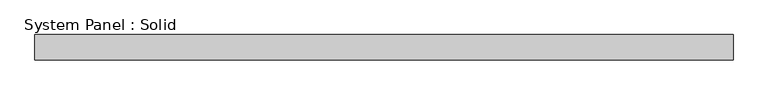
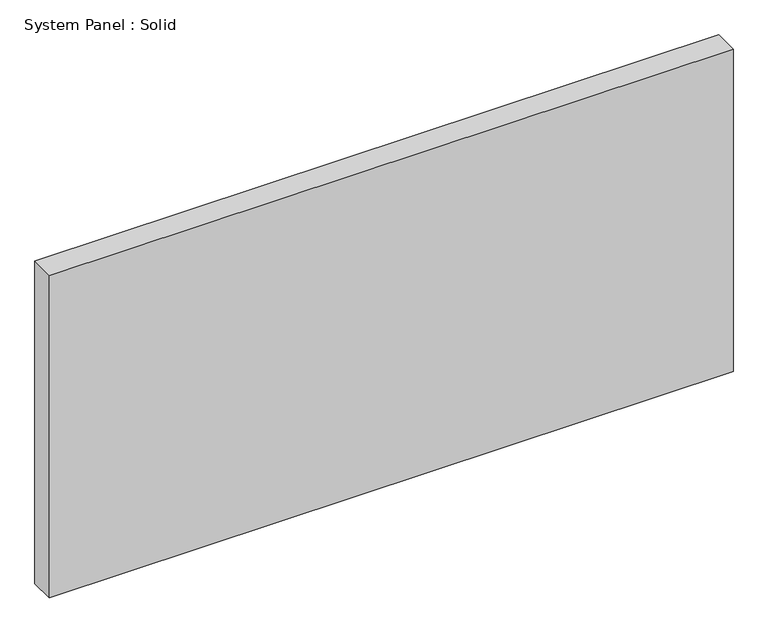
"""IFC4 building model written with IfcOpenShell, lengths in millimetres: plate geometry, System Panel : Solid."""

from ifc_helpers import new_model, si_unit, origin, origin_with_axes, place, context, project, spatial, polyline, outline, extrude, source, transform, mapped, element, save


def system_panel_solid_501921c6(model_context):
    return source(origin(), model_context, "Body", "SweptSolid", [
        extrude(outline(polyline([(874.7173453, -19.05), (-874.7173453, -19.05), (-874.7173453, 44.45), (874.7173453, 44.45), (874.7173453, -19.05)])), origin_with_axes(), (0.0, 0.0, 1.0), 873.1346896),
    ])


if __name__ == "__main__":
    model = new_model("IFC4")
    model_context = context("Model", 3, world=origin())
    ifc_project = project(units=[si_unit("LENGTHUNIT", "METRE", prefix="MILLI")], contexts=[model_context])
    site = spatial("IfcSite", under=ifc_project)
    building = spatial("IfcBuilding", under=site)
    placement = place(None, origin())
    system_panel_solid_shape = system_panel_solid_501921c6(model_context)
    element("IfcPlate", 1, ObjectType="System Panel : Solid", at=placement, inside=building, context=model_context, shape_type="MappedRepresentation", body=[
        mapped(system_panel_solid_shape, transform((0.0, 0.0, 0.0), x_axis=(1.0, 0.0, 0.0), y_axis=(0.0, 1.0, 0.0), z_axis=(0.0, 0.0, 1.0))),
    ])
    save(model, "model.ifc")
